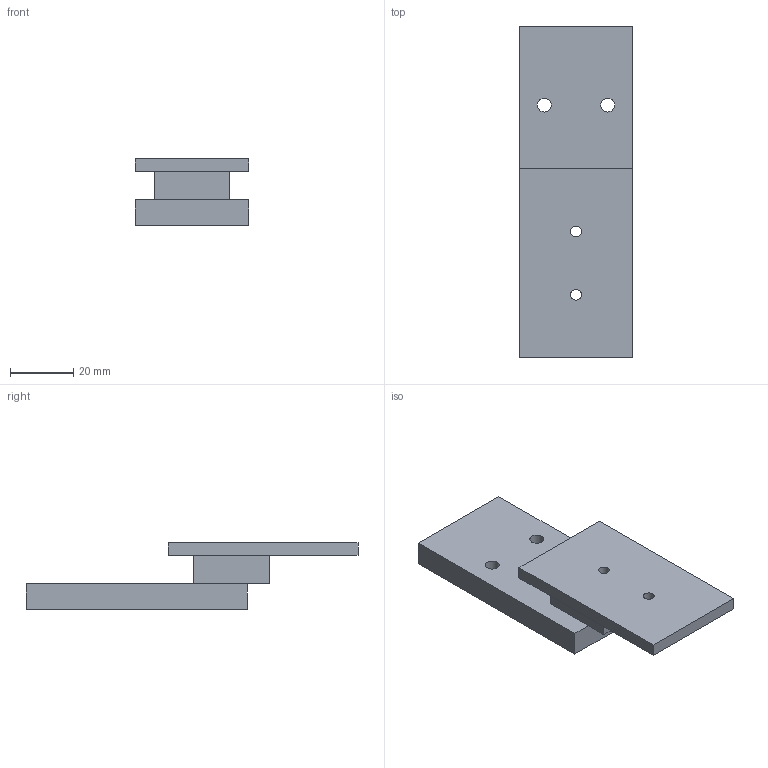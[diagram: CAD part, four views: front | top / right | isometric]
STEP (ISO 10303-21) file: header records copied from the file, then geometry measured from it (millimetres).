
FILE_DESCRIPTION(('Open CASCADE Model'),'2;1');
FILE_NAME('Open CASCADE Shape Model','2026-10-21T12:04:47',('Author'),( 'Open CASCADE'),'Open CASCADE STEP processor 7.9','Open CASCADE 7.9' ,'Unknown');
FILE_SCHEMA(('AUTOMOTIVE_DESIGN { 1 0 10303 214 1 1 1 1 }'));
Length unit declared in the file: millimetre
Products named in the file (1): Open CASCADE STEP translator 7.9 22
Bounding box: 36 x 105 x 21 mm (x, y, z)
Volume: 33513.7 mm3; surface area: 12263.1 mm2
Topology: 1 solids, 1 shells, 21 faces, 52 edges, 34 vertices
Faces by surface type: plane 17, cylinder 4
Full cylindrical faces by diameter (mm): 3.4 x2, 4.4 x2
Entity records: 1344 total; most frequent: CARTESIAN_POINT 260, DIRECTION 200, LINE 140, VECTOR 140, ORIENTED_EDGE 104, PCURVE 104, DEFINITIONAL_REPRESENTATION 104, EDGE_CURVE 52
